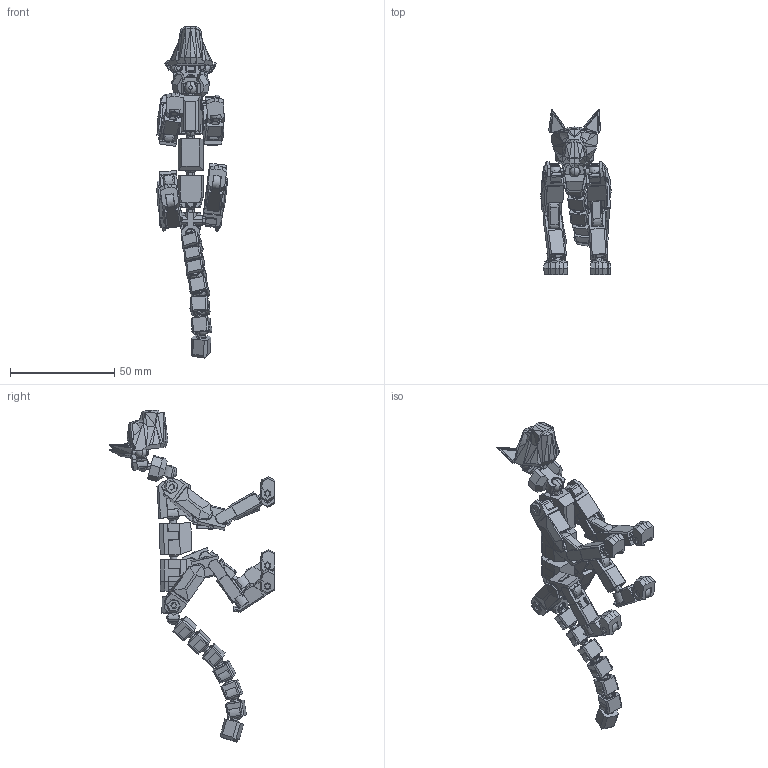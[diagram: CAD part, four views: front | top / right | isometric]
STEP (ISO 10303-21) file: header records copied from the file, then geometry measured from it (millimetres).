
FILE_DESCRIPTION (( 'STEP AP203' ), '1' );
FILE_NAME ('Gyro 7 Stiff Assembled.STEP', '2024-01-22T19:59:54', ( '' ), ( '' ), 'SwSTEP 2.0', 'SolidWorks 2022', '' );
FILE_SCHEMA (( 'CONFIG_CONTROL_DESIGN' ));
Length unit declared in the file: millimetre
Products named in the file (38): NeckPlating2; Part1^Assem1; BasicBone1_Neck; Head2; LegPlating_2; BasicBone1_90Turn2; Part11^Assem1; Part9^Assem1; Paw; BasicBone1_Pelvis Front; PawClaw_ForntPaw; KneePlating; BasicBone1_End Hand; Part3^Assem1; Part6^Assem1; Part4^Assem1_2; PawClaw; BasicBone1_StraigtAndFree; Gyro 7 Stiff Assembled; LegPlating; Part4^Assem1; 180 Hinge; Part7^Assem1; Ear; Part2^Assem1; BasicBone1_Head; Part5^Assem1; Part10^Assem1; Part8^Assem1; BasicBone1_Pelvis; Part8^Assem1_2; Part6^Assem1_2; BasicBone1_+7.5 -2; BasicBone1; BasicBone1_Alternitve end; BasicBone1_-8; NeckPlating; Part7^Assem1_2
Assembly tree (75 placements, depth 2):
  Gyro 7 Stiff Assembled
    BasicBone1  x2
    BasicBone1_Pelvis
    BasicBone1_Pelvis Front
    BasicBone1_90Turn2  x4
    BasicBone1_Neck
    180 Hinge  x4
    BasicBone1_+7.5 -2  x2
    BasicBone1_StraigtAndFree  x2
    BasicBone1_-8  x6
    BasicBone1_Alternitve end
    BasicBone1_Head
    BasicBone1_End Hand  x2
    Paw  x2
    Head2
    Ear  x2
    NeckPlating
    NeckPlating2
    KneePlating  x4
    LegPlating  x4
    LegPlating_2  x4
    Part1^Assem1  x4
    PawClaw  x2
    PawClaw_ForntPaw  x2
    Part2^Assem1
    Part3^Assem1
    Part4^Assem1
    Part4^Assem1_2
    Part6^Assem1_2
    Part6^Assem1
    Part7^Assem1  x2
    Part8^Assem1  x3
    Part8^Assem1_2
    Part7^Assem1_2  x2
    Part9^Assem1
    Part11^Assem1  x6
  Part5^Assem1
  Part10^Assem1
Bounding box: 33.63 x 79.21 x 158.95 mm (x, y, z)
Volume: 32011 mm3; surface area: 38993.3 mm2
Topology: 79 solids, 79 shells, 3244 faces, 8872 edges, 5760 vertices
Faces by surface type: plane 1954, cylinder 566, torus 341, sphere 199, cone 124, bspline 60
Entity records: 56704 total; most frequent: CARTESIAN_POINT 11529, ORIENTED_EDGE 8450, DIRECTION 8375, EDGE_CURVE 4225, AXIS2_PLACEMENT_3D 2885, VERTEX_POINT 2726, LINE 2605, VECTOR 2605
